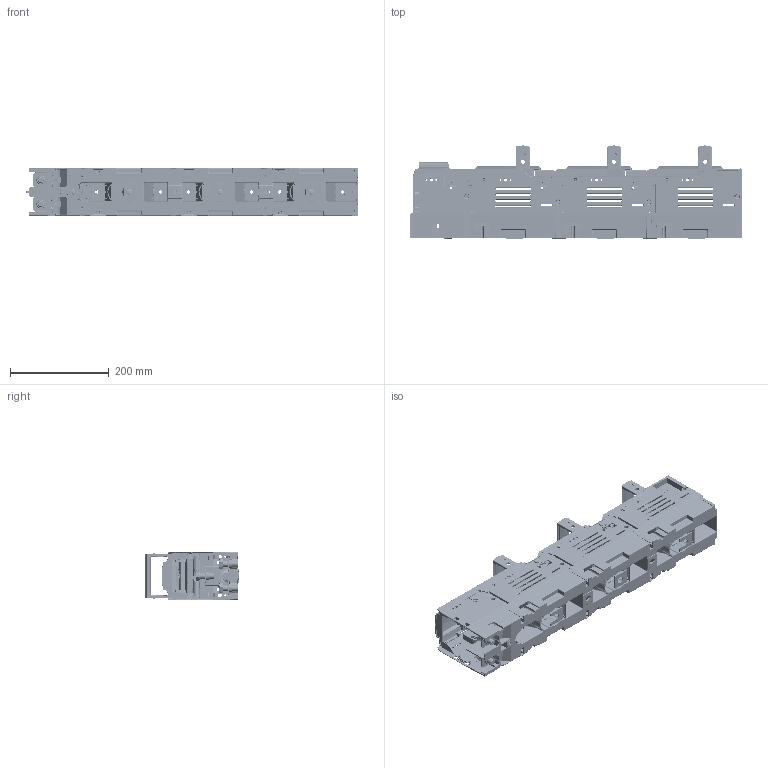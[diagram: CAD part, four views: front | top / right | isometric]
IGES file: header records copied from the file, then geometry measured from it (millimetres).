
Start section: SolidWorks IGES file using analytic representation for surfaces
Global section: file name: U:\14_RD\05_Technical_office\04_Office\Hrdinova\3D modely - IGES\Varius - FSD\FSD123-31-LM.IGS; native system: SolidWorks 2011; preprocessor: SolidWorks 2011; author: adhrja3; date: 170620.122403; units: millimetre
Bounding box: 674 x 189 x 99 mm (x, y, z)
Surface area: 1253469 mm2 (no closed solid volume)
Topology: 0 solids, 0 shells, 10993 faces, 88464 edges, 88251 vertices
Faces by surface type: bspline 6974, revolution 4019
